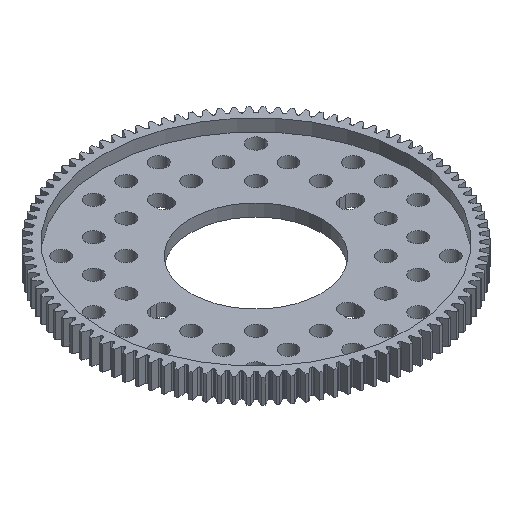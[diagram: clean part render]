
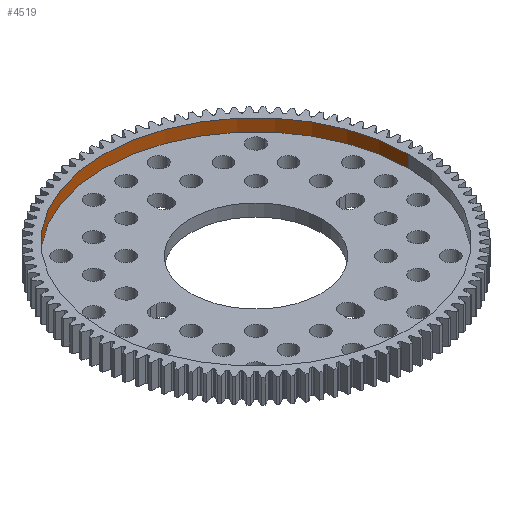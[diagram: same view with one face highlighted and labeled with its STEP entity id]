
A CAD part, isometric view. The second image highlights one B-rep face of the part: STEP entity #4519.
In plain terms, the highlighted cylindrical face has radius 37.5 mm (diameter 75 mm), a partial arc.
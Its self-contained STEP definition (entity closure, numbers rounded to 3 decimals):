
#253 = CARTESIAN_POINT ( 'NONE',  ( 37.5, 0., 3. ) ) ;
#2441 = CIRCLE ( 'NONE', #14983, 37.5 ) ;
#3742 = DIRECTION ( 'NONE',  ( 0., 0., 1. ) ) ;
#4519 = ADVANCED_FACE ( 'NONE', ( #42351 ), #10099, .F. ) ;
#4795 = EDGE_CURVE ( 'NONE', #23008, #16095, #28847, .T. ) ;
#4874 = CIRCLE ( 'NONE', #40586, 37.5 ) ;
#5584 = CARTESIAN_POINT ( 'NONE',  ( -37.5, 0., 6. ) ) ;
#6322 = CARTESIAN_POINT ( 'NONE',  ( 37.5, 0., 3. ) ) ;
#8356 = VERTEX_POINT ( 'NONE', #27453 ) ;
#10099 = CYLINDRICAL_SURFACE ( 'NONE', #36859, 37.5 ) ;
#12196 = CARTESIAN_POINT ( 'NONE',  ( 0., 0., 6. ) ) ;
#12789 = EDGE_CURVE ( 'NONE', #8356, #16095, #4874, .T. ) ;
#12998 = ORIENTED_EDGE ( 'NONE', *, *, #22694, .F. ) ;
#14983 = AXIS2_PLACEMENT_3D ( 'NONE', #40278, #17141, #23851 ) ;
#16095 = VERTEX_POINT ( 'NONE', #5584 ) ;
#17141 = DIRECTION ( 'NONE',  ( 0., 0., 1. ) ) ;
#19605 = CARTESIAN_POINT ( 'NONE',  ( -37.5, 0., 3. ) ) ;
#20566 = ORIENTED_EDGE ( 'NONE', *, *, #12789, .T. ) ;
#22694 = EDGE_CURVE ( 'NONE', #24766, #23008, #2441, .T. ) ;
#23008 = VERTEX_POINT ( 'NONE', #19605 ) ;
#23851 = DIRECTION ( 'NONE',  ( 1., 0., 0. ) ) ;
#24452 = EDGE_CURVE ( 'NONE', #24766, #8356, #26272, .T. ) ;
#24766 = VERTEX_POINT ( 'NONE', #6322 ) ;
#25155 = DIRECTION ( 'NONE',  ( 0., 0., 1. ) ) ;
#25749 = ORIENTED_EDGE ( 'NONE', *, *, #4795, .F. ) ;
#26272 = LINE ( 'NONE', #253, #39310 ) ;
#27453 = CARTESIAN_POINT ( 'NONE',  ( 37.5, 0., 6. ) ) ;
#28847 = LINE ( 'NONE', #37512, #33540 ) ;
#28921 = DIRECTION ( 'NONE',  ( 1., 0., 0. ) ) ;
#30684 = DIRECTION ( 'NONE',  ( 0., 0., 1. ) ) ;
#33540 = VECTOR ( 'NONE', #30684, 1000. ) ;
#33774 = ORIENTED_EDGE ( 'NONE', *, *, #24452, .T. ) ;
#35217 = DIRECTION ( 'NONE',  ( 1., 0., 0. ) ) ;
#36859 = AXIS2_PLACEMENT_3D ( 'NONE', #38250, #25155, #35217 ) ;
#37239 = EDGE_LOOP ( 'NONE', ( #25749, #12998, #33774, #20566 ) ) ;
#37512 = CARTESIAN_POINT ( 'NONE',  ( -37.5, 0., 3. ) ) ;
#38250 = CARTESIAN_POINT ( 'NONE',  ( 0., 0., 3. ) ) ;
#39310 = VECTOR ( 'NONE', #3742, 1000. ) ;
#40278 = CARTESIAN_POINT ( 'NONE',  ( 0., 0., 3. ) ) ;
#40586 = AXIS2_PLACEMENT_3D ( 'NONE', #12196, #42150, #28921 ) ;
#42150 = DIRECTION ( 'NONE',  ( 0., 0., 1. ) ) ;
#42351 = FACE_OUTER_BOUND ( 'NONE', #37239, .T. ) ;
